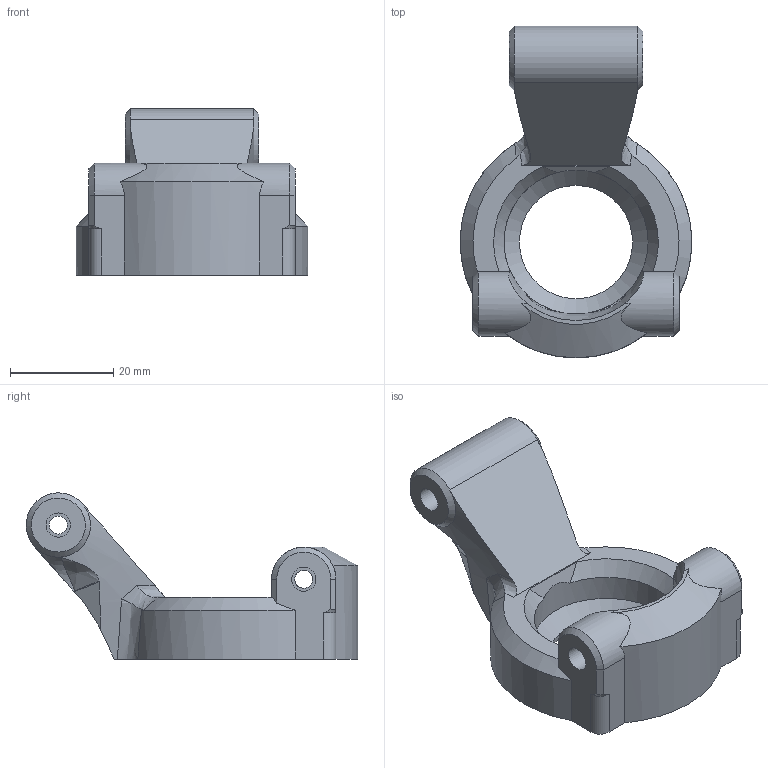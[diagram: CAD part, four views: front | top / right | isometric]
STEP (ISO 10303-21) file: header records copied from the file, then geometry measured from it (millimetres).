
FILE_DESCRIPTION(/* description */ (''),/* implementation_level */ '2;1');
FILE_NAME(/* name */ '3-17-2 Wishbone connector.step',/* time_stamp */ '2025-05-10T22:05:00+02:00',/* author */ (''),/* organization */ (''),/* preprocessor_version */ 'ST-DEVELOPER v20.1',/* originating_system */ 'Autodesk Translation Framework v14.4.0.0',/* authorisation */ '');
FILE_SCHEMA (('AUTOMOTIVE_DESIGN { 1 0 10303 214 3 1 1 }'));
Length unit declared in the file: millimetre
Products named in the file (1): 3-17-2 Wishbone connector
Bounding box: 45 x 64.4 x 32.28 mm (x, y, z)
Volume: 22787 mm3; surface area: 8822.7 mm2
Topology: 1 solids, 1 shells, 77 faces, 202 edges, 132 vertices
Faces by surface type: plane 28, cylinder 22, cone 15, bspline 10, torus 2
Full cylindrical faces by diameter (mm): 3.5 x3, 4.1 x4, 4.7 x4, 22 x1, 28 x1
Entity records: 2998 total; most frequent: CARTESIAN_POINT 1155, ORIENTED_EDGE 404, DIRECTION 339, EDGE_CURVE 202, AXIS2_PLACEMENT_3D 135, VERTEX_POINT 132, EDGE_LOOP 90, FACE_OUTER_BOUND 77
